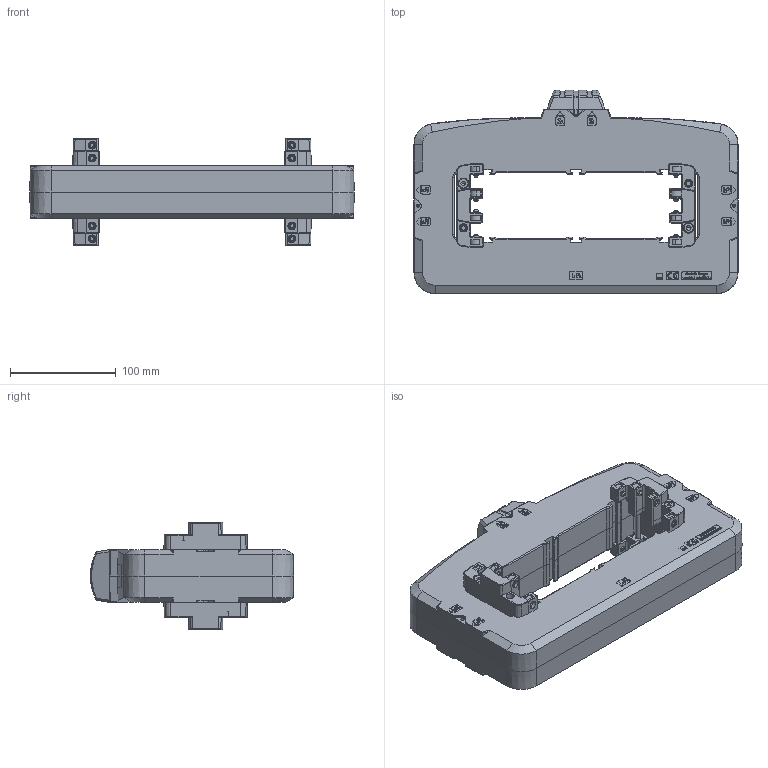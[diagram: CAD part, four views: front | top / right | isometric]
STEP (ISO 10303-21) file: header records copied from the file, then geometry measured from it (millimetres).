
FILE_DESCRIPTION (( 'STEP AP214' ), '1' );
FILE_NAME ('ASK205.5.STEP', '2012-02-07T10:51:05', ( ' ' ), ( '' ), 'SwSTEP 2.0', 'SolidWorks 2010', '' );
FILE_SCHEMA (( 'AUTOMOTIVE_DESIGN' ));
Length unit declared in the file: millimetre
Products named in the file (9): ASK_Abdeckhaube_vereinfacht; ASK205.5_Gehäuseunterteil_vereinfacht; MBS_WN-003_NS_Klemme_WN-003_02; ASK165-205_Spannpratze_kpl_vereinfacht; ASK165.5_Spannpratze_vereinfacht; Zylinderschr_mit Innen6Kt_ M5x60; Gewindestift-DIN 914-M5x10; ASK205.5; ASK205.5_Gehäuseoberteil_vereinfacht
Assembly tree (15 placements, depth 3):
  ASK205.5
    ASK165-205_Spannpratze_kpl_vereinfacht  x4
      Gewindestift-DIN 914-M5x10
      Zylinderschr_mit Innen6Kt_ M5x60
      ASK165.5_Spannpratze_vereinfacht
    MBS_WN-003_NS_Klemme_WN-003_02  x2
    ASK205.5_Gehäuseoberteil_vereinfacht
    ASK_Abdeckhaube_vereinfacht
    ASK205.5_Gehäuseunterteil_vereinfacht
Bounding box: 306 x 192 x 101 mm (x, y, z)
Volume: 99398.9 mm3; surface area: 375551.9 mm2
Topology: 27 solids, 40 shells, 4121 faces, 10755 edges, 6960 vertices
Faces by surface type: plane 2507, cylinder 777, bspline 455, cone 358, torus 24
Entity records: 111542 total; most frequent: CARTESIAN_POINT 42354, ORIENTED_EDGE 15378, DIRECTION 12089, EDGE_CURVE 7695, LINE 5637, VECTOR 5637, VERTEX_POINT 5028, AXIS2_PLACEMENT_3D 3226
